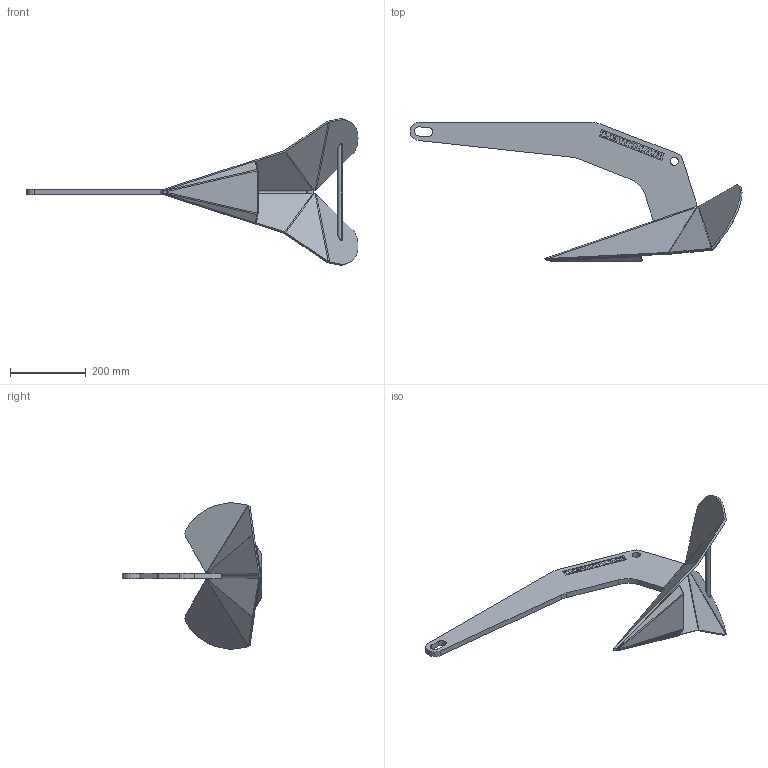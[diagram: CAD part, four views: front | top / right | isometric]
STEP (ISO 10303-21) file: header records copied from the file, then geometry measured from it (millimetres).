
FILE_DESCRIPTION((''),'2;1');
FILE_NAME('69000527_ASM','2013-01-08T',('mdance'),(''),'PRO/ENGINEER BY PARAMETRIC TECHNOLOGY CORPORATION, 2010280','PRO/ENGINEER BY PARAMETRIC TECHNOLOGY CORPORATION, 2010280','');
FILE_SCHEMA(('CONFIG_CONTROL_DESIGN'));
Length unit declared in the file: millimetre
Products named in the file (7): 65001972; 65001973; 65001975; 65001976; 65001974; BALLAST_20KG_DTX; 69000527_ASM
Assembly tree (6 placements, depth 2):
  69000527_ASM
    65001972
    65001973
    65001975
    65001976
    65001974
    BALLAST_20KG_DTX
Bounding box: 877.03 x 367.86 x 389.06 mm (x, y, z)
Volume: 2459138 mm3; surface area: 564679.7 mm2
Topology: 6 solids, 6 shells, 1325 faces, 3691 edges, 2446 vertices
Faces by surface type: plane 1261, cylinder 32, bspline 18, extrusion 14
Entity records: 42526 total; most frequent: CARTESIAN_POINT 8489, ORIENTED_EDGE 7382, DIRECTION 6279, EDGE_CURVE 3691, VECTOR 3595, LINE 3581, VERTEX_POINT 2446, EDGE_LOOP 1401
